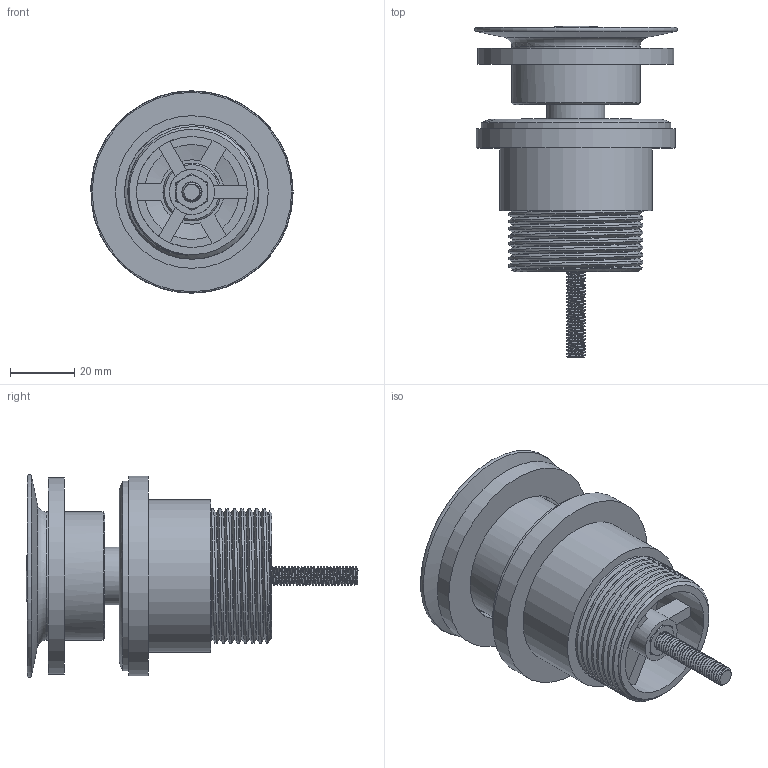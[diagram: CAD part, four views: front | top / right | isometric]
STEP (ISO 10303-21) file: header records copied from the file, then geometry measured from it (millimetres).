
FILE_DESCRIPTION(/* description */ (''),/* implementation_level */ '2;1');
FILE_NAME(/* name */ 'c:\worker\convert-fusion-r09\tmp\job-1\31\output\files\cce877f8-8fe8-4057-ae3a-ba473785555f\126a7eae-fbd5-4f45-a236-d78b50ed3130.zip.stp',/* time_stamp */ '2019-12-12T14:33:48+00:00',/* author */ (''),/* organization */ (''),/* preprocessor_version */ 'ST-DEVELOPER v18',/* originating_system */ 'Autodesk Translation Framework v8.12.0.6',/* authorisation */ '');
FILE_SCHEMA (('AUTOMOTIVE_DESIGN { 1 0 10303 214 3 1 1 }'));
Products named in the file (1): !A47
Bounding box: 62.93 x 103.28 x 62.99 mm (x, y, z)
Volume: 53407.5 mm3; surface area: 52141.2 mm2
Topology: 11 solids, 11 shells, 402 faces, 1309 edges, 946 vertices
Faces by surface type: cylinder 158, plane 119, bspline 76, cone 38, torus 9, sphere 2
Full cylindrical faces by diameter (mm): 1.3 x2, 1.35 x1, 3.5 x2, 5 x2, 5.3 x4, 6 x62, 6.5 x2, 6.555 x1, 9.5 x2, 11.5 x1, 11.7 x1, 13.5 x1, 14 x3, 14.071 x2, 14.5 x5, 16 x2, 17 x1, 18 x1, 29.5 x1, 31.5 x2, 34.5 x1, 35 x1, 37.5 x1, 39.5 x7, 40 x1, 41.8 x7, 42 x1, 43 x1, 44 x1, 47.5 x1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
Entity records: 368679 total; most frequent: CARTESIAN_POINT 357971, ORIENTED_EDGE 2616, DIRECTION 1766, EDGE_CURVE 1308, VERTEX_POINT 946, AXIS2_PLACEMENT_3D 685, B_SPLINE_CURVE_WITH_KNOTS 490, EDGE_LOOP 446
